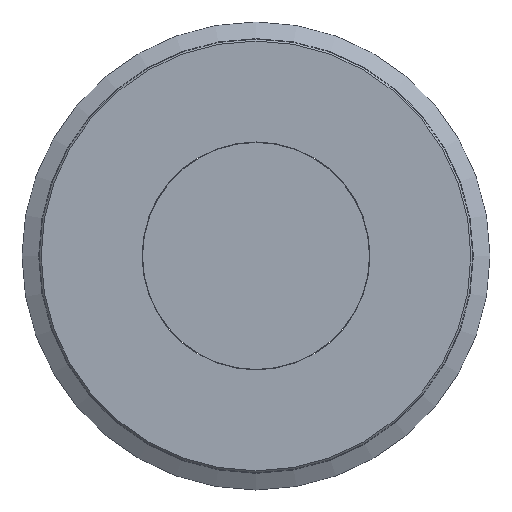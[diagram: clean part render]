
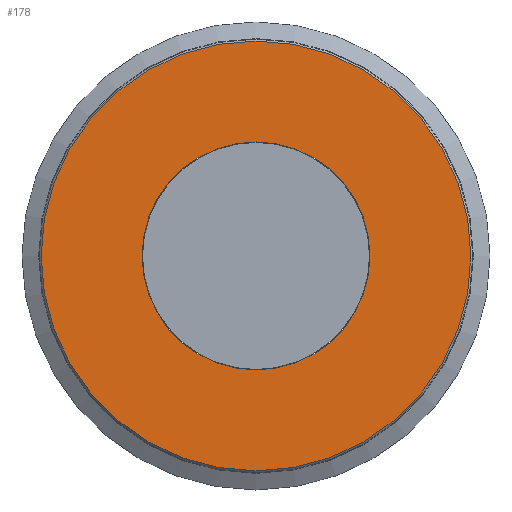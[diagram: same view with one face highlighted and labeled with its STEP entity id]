
A CAD part, top view. The second image highlights one B-rep face of the part: STEP entity #178.
In plain terms, the highlighted planar face has unit normal (0, 0, 1).
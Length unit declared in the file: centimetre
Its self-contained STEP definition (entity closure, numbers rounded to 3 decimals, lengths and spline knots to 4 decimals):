
#23=FACE_BOUND('',#61,.T.);
#42=FACE_OUTER_BOUND('',#60,.T.);
#60=EDGE_LOOP('',(#130));
#61=EDGE_LOOP('',(#131));
#83=CIRCLE('',#198,13.2);
#85=CIRCLE('',#202,7.);
#97=VERTEX_POINT('',#291);
#99=VERTEX_POINT('',#297);
#111=EDGE_CURVE('',#97,#97,#83,.T.);
#113=EDGE_CURVE('',#99,#99,#85,.T.);
#130=ORIENTED_EDGE('',*,*,#111,.F.);
#131=ORIENTED_EDGE('',*,*,#113,.F.);
#152=PLANE('',#201);
#178=ADVANCED_FACE('',(#42,#23),#152,.T.);
#198=AXIS2_PLACEMENT_3D('',#292,#236,#237);
#201=AXIS2_PLACEMENT_3D('',#296,#242,#243);
#202=AXIS2_PLACEMENT_3D('',#298,#244,#245);
#236=DIRECTION('center_axis',(0.,0.,
-1.));
#237=DIRECTION('ref_axis',(0.,-1.,0.));
#242=DIRECTION('center_axis',(0.,0.,
1.));
#243=DIRECTION('ref_axis',(0.,1.,0.));
#244=DIRECTION('center_axis',(0.,0.,
1.));
#245=DIRECTION('ref_axis',(-1.,0.,0.));
#291=CARTESIAN_POINT('',(0.,13.2,1.1));
#292=CARTESIAN_POINT('Origin',(0.,0.,
1.1));
#296=CARTESIAN_POINT('Origin',(0.,7.,1.1));
#297=CARTESIAN_POINT('',(0.,7.,1.1));
#298=CARTESIAN_POINT('Origin',(0.,0.,
1.1));
